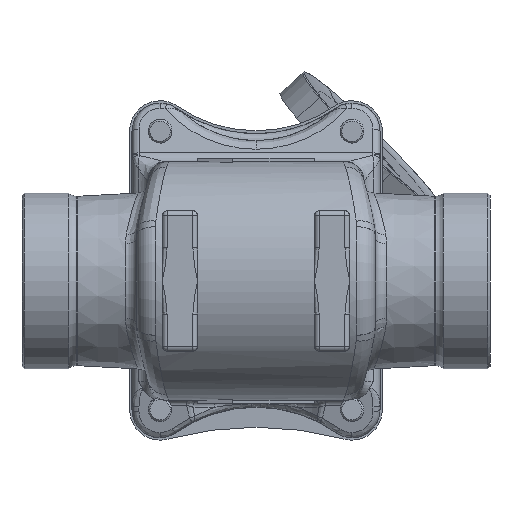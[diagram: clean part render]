
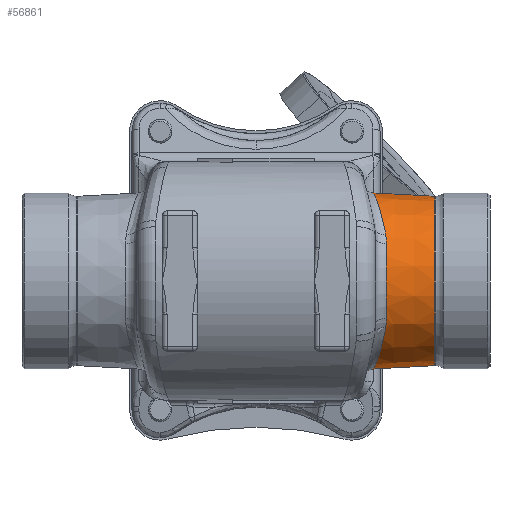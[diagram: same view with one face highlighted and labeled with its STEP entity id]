
A CAD part, front view. The second image highlights one B-rep face of the part: STEP entity #56861.
In plain terms, the highlighted conical face has half-angle 3.107 degrees and reference radius 36 mm.
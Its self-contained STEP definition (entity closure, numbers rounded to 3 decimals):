
#553 = CARTESIAN_POINT ( 'NONE',  ( 55.729, -33.049, -17.397 ) ) ;
#1648 = B_SPLINE_CURVE_WITH_KNOTS ( 'NONE', 3,
 ( #103384, #110166, #6768, #50508, #41399, #92565, #110721, #51058, #15858, #76643, #33423, #68105, #102817, #85708, #60096, #77785, #7880, #42535, #69206, #112416, #77223, #103934 ),
 .UNSPECIFIED., .F., .F.,
 ( 4, 2, 2, 2, 2, 2, 2, 2, 2, 2, 4 ),
 ( 0., 0.005, 0.01, 0.014, 0.017, 0.019, 0.024, 0.026, 0.029, 0.034, 0.038 ),
 .UNSPECIFIED. ) ;
#2383 = EDGE_CURVE ( 'NONE', #90273, #85827, #26373, .T. ) ;
#4086 = CARTESIAN_POINT ( 'NONE',  ( 54.782, -29.264, 23.253 ) ) ;
#6768 = CARTESIAN_POINT ( 'NONE',  ( 54.916, -29.761, -22.642 ) ) ;
#7278 = CARTESIAN_POINT ( 'NONE',  ( 80., 0., 0. ) ) ;
#7880 = CARTESIAN_POINT ( 'NONE',  ( 50.93, -10.105, -36.203 ) ) ;
#11045 = ORIENTED_EDGE ( 'NONE', *, *, #55746, .T. ) ;
#14395 = EDGE_CURVE ( 'NONE', #36652, #106136, #1648, .T. ) ;
#14823 = CARTESIAN_POINT ( 'NONE',  ( 55.729, 0., 0. ) ) ;
#15393 = DIRECTION ( 'NONE',  ( 0., 0., -1. ) ) ;
#15858 = CARTESIAN_POINT ( 'NONE',  ( 52.724, -20.706, -31.252 ) ) ;
#17207 = LINE ( 'NONE', #42180, #25896 ) ;
#17606 = CARTESIAN_POINT ( 'NONE',  ( 55.729, -33.699, -16.03 ) ) ;
#17988 = CARTESIAN_POINT ( 'NONE',  ( 76.488, 0., 36.191 ) ) ;
#20965 = DIRECTION ( 'NONE',  ( -1., 0., 0. ) ) ;
#21181 = CARTESIAN_POINT ( 'NONE',  ( 50.932, -10.122, 36.198 ) ) ;
#21708 = ORIENTED_EDGE ( 'NONE', *, *, #2383, .T. ) ;
#22859 = CARTESIAN_POINT ( 'NONE',  ( 54.913, -29.74, 22.629 ) ) ;
#25896 = VECTOR ( 'NONE', #94470, 1000. ) ;
#26373 = LINE ( 'NONE', #69492, #95321 ) ;
#28594 = AXIS2_PLACEMENT_3D ( 'NONE', #29469, #20965, #81786 ) ;
#28979 = EDGE_CURVE ( 'NONE', #102276, #106136, #17207, .T. ) ;
#29469 = CARTESIAN_POINT ( 'NONE',  ( 76.488, 0., 0. ) ) ;
#30263 = CARTESIAN_POINT ( 'NONE',  ( 52.463, -19.422, 32.082 ) ) ;
#30774 = CONICAL_SURFACE ( 'NONE', #74340, 36., 0.054 ) ;
#30819 = CARTESIAN_POINT ( 'NONE',  ( 51.702, -15.305, 34.31 ) ) ;
#31918 = CARTESIAN_POINT ( 'NONE',  ( 51.357, -13.124, 35.196 ) ) ;
#33387 = FACE_OUTER_BOUND ( 'NONE', #94243, .T. ) ;
#33423 = CARTESIAN_POINT ( 'NONE',  ( 52.326, -18.724, -32.503 ) ) ;
#36652 = VERTEX_POINT ( 'NONE', #46996 ) ;
#40395 = CARTESIAN_POINT ( 'NONE',  ( 55.296, -31.097, 20.687 ) ) ;
#41399 = CARTESIAN_POINT ( 'NONE',  ( 54.105, -26.707, -26.237 ) ) ;
#41663 = DIRECTION ( 'NONE',  ( -0.999, 0., 0.054 ) ) ;
#42023 = EDGE_CURVE ( 'NONE', #81636, #36652, #65457, .T. ) ;
#42180 = CARTESIAN_POINT ( 'NONE',  ( 80., 0., -36. ) ) ;
#42535 = CARTESIAN_POINT ( 'NONE',  ( 50.643, -7.817, -36.806 ) ) ;
#44672 = CARTESIAN_POINT ( 'NONE',  ( 55.729, -33.699, 16.03 ) ) ;
#45519 = B_SPLINE_CURVE_WITH_KNOTS ( 'NONE', 3,
 ( #84214, #100730, #90446, #48414, #48979, #21181, #73447, #47267, #31918, #30819, #75673, #82565, #30263, #56338, #108069, #47832, #64312, #81990, #110297, #4086, #22859, #65428, #40395, #74008 ),
 .UNSPECIFIED., .F., .F.,
 ( 4, 2, 2, 2, 2, 2, 2, 2, 2, 2, 2, 4 ),
 ( 0.026, 0.031, 0.035, 0.038, 0.04, 0.045, 0.047, 0.05, 0.054, 0.059, 0.061, 0.064 ),
 .UNSPECIFIED. ) ;
#45657 = DIRECTION ( 'NONE',  ( -1., 0., 0. ) ) ;
#46996 = CARTESIAN_POINT ( 'NONE',  ( 55.417, -31.515, -20.016 ) ) ;
#47267 = CARTESIAN_POINT ( 'NONE',  ( 51.247, -12.386, 35.469 ) ) ;
#47832 = CARTESIAN_POINT ( 'NONE',  ( 53.281, -23.284, 29.375 ) ) ;
#48414 = CARTESIAN_POINT ( 'NONE',  ( 50.476, -6.287, 37.107 ) ) ;
#48639 = ORIENTED_EDGE ( 'NONE', *, *, #28979, .F. ) ;
#48979 = CARTESIAN_POINT ( 'NONE',  ( 50.644, -7.83, 36.803 ) ) ;
#50508 = CARTESIAN_POINT ( 'NONE',  ( 54.38, -27.771, -25.086 ) ) ;
#50643 = CARTESIAN_POINT ( 'NONE',  ( 76.488, 0., -36.191 ) ) ;
#51058 = CARTESIAN_POINT ( 'NONE',  ( 52.861, -21.353, -30.805 ) ) ;
#51218 = CARTESIAN_POINT ( 'NONE',  ( 49.975, 0., -37.63 ) ) ;
#53357 = CARTESIAN_POINT ( 'NONE',  ( 55.729, -33.699, -16.03 ) ) ;
#55746 = EDGE_CURVE ( 'NONE', #102276, #90273, #106615, .T. ) ;
#55960 = VERTEX_POINT ( 'NONE', #44672 ) ;
#56338 = CARTESIAN_POINT ( 'NONE',  ( 52.731, -20.738, 31.23 ) ) ;
#56861 = ADVANCED_FACE ( 'NONE', ( #33387 ), #30774, .T. ) ;
#57196 = VERTEX_POINT ( 'NONE', #60922 ) ;
#57806 = CARTESIAN_POINT ( 'NONE',  ( 49.975, 0., 37.63 ) ) ;
#60003 = ORIENTED_EDGE ( 'NONE', *, *, #111556, .T. ) ;
#60096 = CARTESIAN_POINT ( 'NONE',  ( 51.244, -12.365, -35.476 ) ) ;
#60922 = CARTESIAN_POINT ( 'NONE',  ( 55.417, -31.515, 20.016 ) ) ;
#61655 = ORIENTED_EDGE ( 'NONE', *, *, #42023, .T. ) ;
#62921 = EDGE_CURVE ( 'NONE', #85827, #57196, #45519, .T. ) ;
#64312 = CARTESIAN_POINT ( 'NONE',  ( 53.559, -24.478, 28.367 ) ) ;
#65428 = CARTESIAN_POINT ( 'NONE',  ( 55.17, -30.657, 21.346 ) ) ;
#65457 = B_SPLINE_CURVE_WITH_KNOTS ( 'NONE', 3,
 ( #17606, #553, #94864, #95994 ),
 .UNSPECIFIED., .F., .F.,
 ( 4, 4 ),
 ( 0.038, 0.042 ),
 .UNSPECIFIED. ) ;
#65472 = ORIENTED_EDGE ( 'NONE', *, *, #110506, .T. ) ;
#65738 = AXIS2_PLACEMENT_3D ( 'NONE', #14823, #83593, #15393 ) ;
#68105 = CARTESIAN_POINT ( 'NONE',  ( 51.942, -16.685, -33.646 ) ) ;
#68898 = CARTESIAN_POINT ( 'NONE',  ( 55.417, -31.515, 20.016 ) ) ;
#69206 = CARTESIAN_POINT ( 'NONE',  ( 50.475, -6.276, -37.109 ) ) ;
#69492 = CARTESIAN_POINT ( 'NONE',  ( 80., 0., 36. ) ) ;
#71367 = ORIENTED_EDGE ( 'NONE', *, *, #14395, .T. ) ;
#73447 = CARTESIAN_POINT ( 'NONE',  ( 51.034, -10.884, 35.97 ) ) ;
#74008 = CARTESIAN_POINT ( 'NONE',  ( 55.417, -31.515, 20.016 ) ) ;
#74340 = AXIS2_PLACEMENT_3D ( 'NONE', #7278, #45657, #95355 ) ;
#75673 = CARTESIAN_POINT ( 'NONE',  ( 51.947, -16.711, 33.632 ) ) ;
#75676 = B_SPLINE_CURVE_WITH_KNOTS ( 'NONE', 3,
 ( #68898, #87621, #78602, #107355 ),
 .UNSPECIFIED., .F., .F.,
 ( 4, 4 ),
 ( 0., 0.005 ),
 .UNSPECIFIED. ) ;
#76643 = CARTESIAN_POINT ( 'NONE',  ( 52.457, -19.392, -32.1 ) ) ;
#77223 = CARTESIAN_POINT ( 'NONE',  ( 50.068, -1.589, -37.625 ) ) ;
#77785 = CARTESIAN_POINT ( 'NONE',  ( 51.031, -10.866, -35.976 ) ) ;
#78602 = CARTESIAN_POINT ( 'NONE',  ( 55.729, -33.048, 17.398 ) ) ;
#81636 = VERTEX_POINT ( 'NONE', #53357 ) ;
#81786 = DIRECTION ( 'NONE',  ( 0., 0., -1. ) ) ;
#81990 = CARTESIAN_POINT ( 'NONE',  ( 54.11, -26.727, 26.215 ) ) ;
#82565 = CARTESIAN_POINT ( 'NONE',  ( 52.332, -18.753, 32.486 ) ) ;
#83593 = DIRECTION ( 'NONE',  ( 1., 0., 0. ) ) ;
#84214 = CARTESIAN_POINT ( 'NONE',  ( 49.975, 0., 37.63 ) ) ;
#85708 = CARTESIAN_POINT ( 'NONE',  ( 51.354, -13.103, -35.204 ) ) ;
#85827 = VERTEX_POINT ( 'NONE', #57806 ) ;
#87621 = CARTESIAN_POINT ( 'NONE',  ( 55.651, -32.319, 18.727 ) ) ;
#90273 = VERTEX_POINT ( 'NONE', #17988 ) ;
#90446 = CARTESIAN_POINT ( 'NONE',  ( 50.188, -3.168, 37.518 ) ) ;
#92565 = CARTESIAN_POINT ( 'NONE',  ( 53.552, -24.447, -28.394 ) ) ;
#94243 = EDGE_LOOP ( 'NONE', ( #48639, #11045, #21708, #103660, #60003, #65472, #61655, #71367 ) ) ;
#94470 = DIRECTION ( 'NONE',  ( -0.999, 0., -0.054 ) ) ;
#94864 = CARTESIAN_POINT ( 'NONE',  ( 55.651, -32.32, -18.726 ) ) ;
#95321 = VECTOR ( 'NONE', #41663, 1000. ) ;
#95355 = DIRECTION ( 'NONE',  ( 0., 0., 1. ) ) ;
#95994 = CARTESIAN_POINT ( 'NONE',  ( 55.417, -31.515, -20.016 ) ) ;
#100730 = CARTESIAN_POINT ( 'NONE',  ( 50.068, -1.592, 37.625 ) ) ;
#102276 = VERTEX_POINT ( 'NONE', #50643 ) ;
#102817 = CARTESIAN_POINT ( 'NONE',  ( 51.698, -15.28, -34.321 ) ) ;
#103384 = CARTESIAN_POINT ( 'NONE',  ( 55.417, -31.515, -20.016 ) ) ;
#103660 = ORIENTED_EDGE ( 'NONE', *, *, #62921, .T. ) ;
#103934 = CARTESIAN_POINT ( 'NONE',  ( 49.975, 0., -37.63 ) ) ;
#106136 = VERTEX_POINT ( 'NONE', #51218 ) ;
#106615 = CIRCLE ( 'NONE', #28594, 36.191 ) ;
#107355 = CARTESIAN_POINT ( 'NONE',  ( 55.729, -33.699, 16.03 ) ) ;
#107518 = CIRCLE ( 'NONE', #65738, 37.318 ) ;
#108069 = CARTESIAN_POINT ( 'NONE',  ( 52.868, -21.385, 30.782 ) ) ;
#110166 = CARTESIAN_POINT ( 'NONE',  ( 55.174, -30.679, -21.357 ) ) ;
#110297 = CARTESIAN_POINT ( 'NONE',  ( 54.383, -27.783, 25.072 ) ) ;
#110506 = EDGE_CURVE ( 'NONE', #55960, #81636, #107518, .T. ) ;
#110721 = CARTESIAN_POINT ( 'NONE',  ( 53.274, -23.25, -29.402 ) ) ;
#111556 = EDGE_CURVE ( 'NONE', #57196, #55960, #75676, .T. ) ;
#112416 = CARTESIAN_POINT ( 'NONE',  ( 50.187, -3.162, -37.518 ) ) ;
